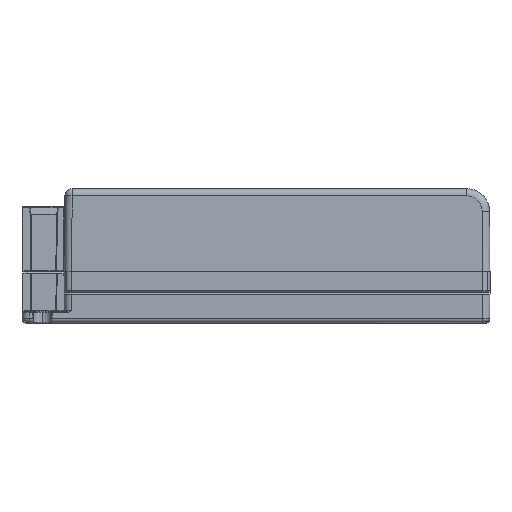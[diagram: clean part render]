
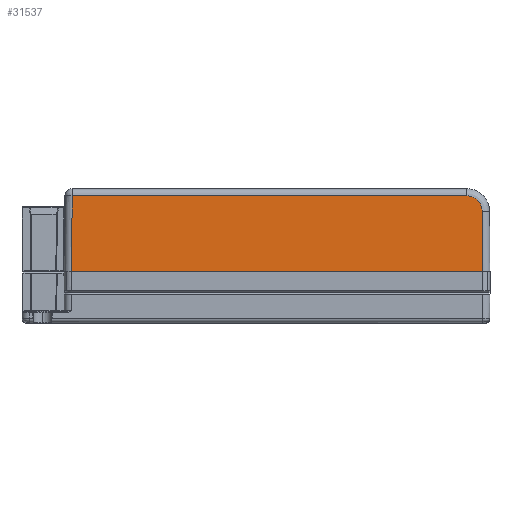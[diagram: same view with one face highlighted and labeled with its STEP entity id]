
A CAD part, top view. The second image highlights one B-rep face of the part: STEP entity #31537.
In plain terms, the highlighted planar face has unit normal (0, 0.009, 1).
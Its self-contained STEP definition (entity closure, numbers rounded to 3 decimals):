
#1675 = EDGE_CURVE ( 'NONE', #36354, #15720, #3004, .T. ) ;
#3004 = LINE ( 'NONE', #16539, #35503 ) ;
#5608 = DIRECTION ( 'NONE',  ( 0., 0.009, 1. ) ) ;
#6160 = LINE ( 'NONE', #13548, #15920 ) ;
#6522 = CARTESIAN_POINT ( 'NONE',  ( 101.267, 26.521, 33.367 ) ) ;
#7311 = AXIS2_PLACEMENT_3D ( 'NONE', #18693, #5608, #32005 ) ;
#8654 = VERTEX_POINT ( 'NONE', #29103 ) ;
#9205 = VECTOR ( 'NONE', #31880, 1000. ) ;
#10003 = CARTESIAN_POINT ( 'NONE',  ( 97.885, 27.914, 33.355 ) ) ;
#10198 = DIRECTION ( 'NONE',  ( -0.009, -1., 0.009 ) ) ;
#12124 = EDGE_CURVE ( 'NONE', #15720, #17008, #42506, .T. ) ;
#12231 = CARTESIAN_POINT ( 'NONE',  ( 9.459, 27.914, 33.355 ) ) ;
#12258 = ORIENTED_EDGE ( 'NONE', *, *, #38441, .T. ) ;
#13490 = DIRECTION ( 'NONE',  ( 1., 0., 0. ) ) ;
#13548 = CARTESIAN_POINT ( 'NONE',  ( 101.4, 11.286, 33.5 ) ) ;
#13673 = VECTOR ( 'NONE', #13490, 1000. ) ;
#14155 = EDGE_CURVE ( 'NONE', #17008, #34259, #6160, .T. ) ;
#15415 = FACE_OUTER_BOUND ( 'NONE', #33352, .T. ) ;
#15720 = VERTEX_POINT ( 'NONE', #39460 ) ;
#15920 = VECTOR ( 'NONE', #26636, 1000. ) ;
#16539 = CARTESIAN_POINT ( 'NONE',  ( 10.907, 12.104, 33.493 ) ) ;
#17008 = VERTEX_POINT ( 'NONE', #20172 ) ;
#18478 = PLANE ( 'NONE',  #7311 ) ;
#18693 = CARTESIAN_POINT ( 'NONE',  ( 103., 11.3, 33.5 ) ) ;
#20172 = CARTESIAN_POINT ( 'NONE',  ( 101.4, 11.3, 33.5 ) ) ;
#22309 =( BOUNDED_CURVE ( )  B_SPLINE_CURVE ( 3, ( #29659, #6522, #26805, #10003 ),
 .UNSPECIFIED., .F., .T. ) 
 B_SPLINE_CURVE_WITH_KNOTS ( ( 4, 4 ),
 ( 4.721, 6.283 ),
 .UNSPECIFIED. ) 
 CURVE ( )  GEOMETRIC_REPRESENTATION_ITEM ( )  RATIONAL_B_SPLINE_CURVE ( ( 1., 0.807, 0.807, 1. ) ) 
 REPRESENTATION_ITEM ( '' )  );
#23097 = CARTESIAN_POINT ( 'NONE',  ( 103., 11.3, 33.5 ) ) ;
#25318 = LINE ( 'NONE', #12231, #9205 ) ;
#26636 = DIRECTION ( 'NONE',  ( -0.009, 1., -0.009 ) ) ;
#26763 = EDGE_CURVE ( 'NONE', #8654, #36354, #25318, .T. ) ;
#26805 = CARTESIAN_POINT ( 'NONE',  ( 99.863, 27.914, 33.355 ) ) ;
#29103 = CARTESIAN_POINT ( 'NONE',  ( 97.885, 27.914, 33.355 ) ) ;
#29133 = CARTESIAN_POINT ( 'NONE',  ( 101.284, 24.544, 33.384 ) ) ;
#29204 = ORIENTED_EDGE ( 'NONE', *, *, #12124, .T. ) ;
#29659 = CARTESIAN_POINT ( 'NONE',  ( 101.284, 24.544, 33.384 ) ) ;
#31537 = ADVANCED_FACE ( 'NONE', ( #15415 ), #18478, .T. ) ;
#31880 = DIRECTION ( 'NONE',  ( -1., 0., 0. ) ) ;
#32005 = DIRECTION ( 'NONE',  ( 0., -1., 0.009 ) ) ;
#33352 = EDGE_LOOP ( 'NONE', ( #29204, #41245, #12258, #34981, #40816 ) ) ;
#34259 = VERTEX_POINT ( 'NONE', #29133 ) ;
#34981 = ORIENTED_EDGE ( 'NONE', *, *, #26763, .T. ) ;
#35503 = VECTOR ( 'NONE', #10198, 1000. ) ;
#36354 = VERTEX_POINT ( 'NONE', #38046 ) ;
#38046 = CARTESIAN_POINT ( 'NONE',  ( 11.045, 27.914, 33.355 ) ) ;
#38441 = EDGE_CURVE ( 'NONE', #34259, #8654, #22309, .T. ) ;
#39460 = CARTESIAN_POINT ( 'NONE',  ( 10.9, 11.3, 33.5 ) ) ;
#40816 = ORIENTED_EDGE ( 'NONE', *, *, #1675, .T. ) ;
#41245 = ORIENTED_EDGE ( 'NONE', *, *, #14155, .T. ) ;
#42506 = LINE ( 'NONE', #23097, #13673 ) ;
